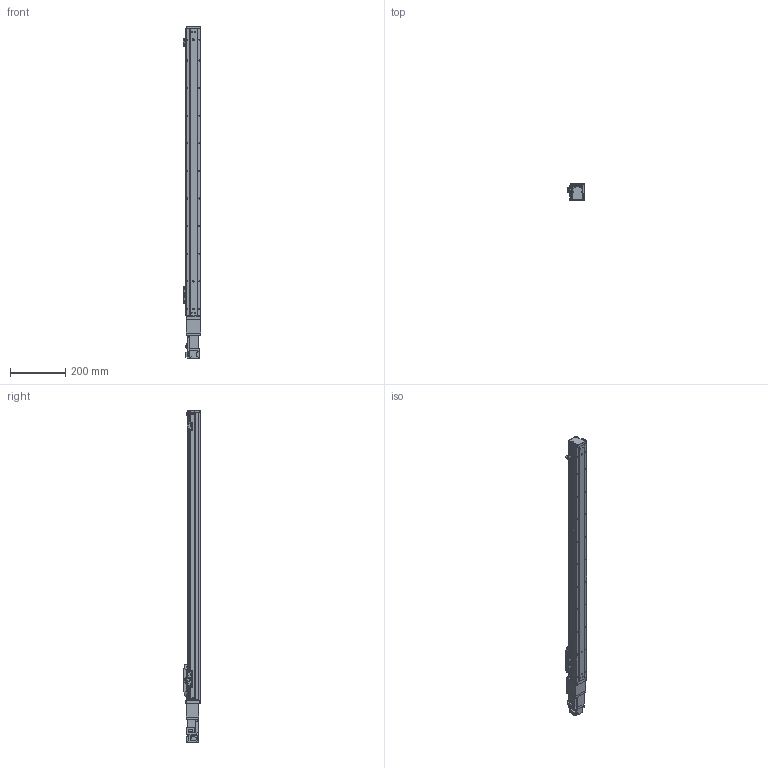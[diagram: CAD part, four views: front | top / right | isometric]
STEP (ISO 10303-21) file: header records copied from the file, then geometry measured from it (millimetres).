
FILE_DESCRIPTION (( 'STEP AP203' ), '1' );
FILE_NAME ('GTH5-900-BC-M10-C4.step', '2023-08-28T00:46:14', ( '微软用户' ), ( '微软中国' ), 'SwSTEP 2.0', 'SolidWorks 2020', '' );
FILE_SCHEMA (( 'CONFIG_CONTROL_DESIGN' ));
Length unit declared in the file: millimetre
Products named in the file (20): GTH50-006; GTH50-013; GTH50-022-1; GTH50-004; GTH50-023; CTHA60-027; GBT 70.3-M3℅6; GBT 70.1-M3℅6; CTHA60-013; BTH-M3X5X6; GBT96.1-2002 3×0.8; CTHA60-006-2_CTHA60-006-1; GTH50-001_900; GTH50-024; HG-KR13; GBT 70.1-M4×16; GBT 70.1-M2.5×6; GTH5-900-BC-M10-C4; GTH50-003; GTH50-028
Assembly tree (60 placements, depth 2):
  GTH5-900-BC-M10-C4
    GTH50-006
    GTH50-004
    GBT 70.3-M3℅6  x6
    BTH-M3X5X6  x8
    GTH50-001_900
    GBT 70.1-M4×16  x8
    GTH50-003
    GTH50-013
    GTH50-023  x3
    GBT 70.1-M3℅6  x12
    GBT96.1-2002 3×0.8  x6
    GTH50-024  x3
    GBT 70.1-M2.5×6  x2
    GTH50-028  x2
    GTH50-022-1
    CTHA60-027
    CTHA60-013
    CTHA60-006-2_CTHA60-006-1
    HG-KR13
Bounding box: 63.8 x 60 x 1202.6 mm (x, y, z)
Volume: 2487034 mm3; surface area: 369725.1 mm2
Topology: 62 solids, 62 shells, 2065 faces, 4752 edges, 2902 vertices
Faces by surface type: plane 1105, cylinder 559, cone 235, torus 158, sphere 8
Entity records: 34699 total; most frequent: DIRECTION 5619, CARTESIAN_POINT 5487, ORIENTED_EDGE 5190, EDGE_CURVE 2595, AXIS2_PLACEMENT_3D 1940, VECTOR 1739, LINE 1739, VERTEX_POINT 1642
